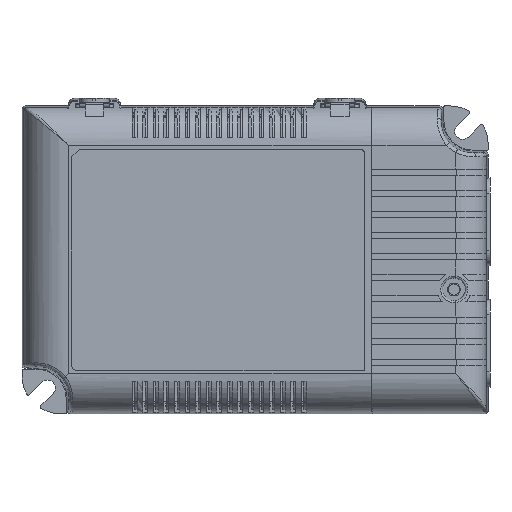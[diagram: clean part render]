
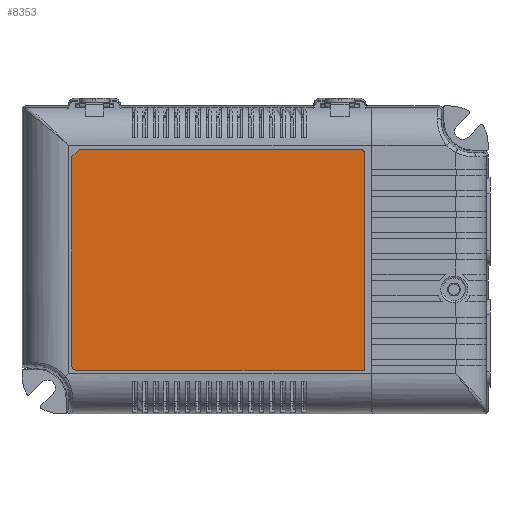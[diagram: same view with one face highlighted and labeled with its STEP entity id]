
A CAD part, top view. The second image highlights one B-rep face of the part: STEP entity #8353.
In plain terms, the highlighted planar face has unit normal (0, 0, 1).
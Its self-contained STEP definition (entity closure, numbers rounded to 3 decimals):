
#8237=CARTESIAN_POINT('',(37.973,40.088,16.763));
#8238=VERTEX_POINT('',#8237);
#8245=CARTESIAN_POINT('',(36.973,41.088,16.763));
#8246=VERTEX_POINT('',#8245);
#8247=CARTESIAN_POINT('',(37.973,41.088,16.763));
#8248=DIRECTION('',(0.0,0.0,1.0));
#8249=DIRECTION('',(-1.0,0.0,0.0));
#8250=AXIS2_PLACEMENT_3D('',#8247,#8248,#8249);
#8251=CIRCLE('',#8250,1.0);
#8252=EDGE_CURVE('',#8246,#8238,#8251,.T.);
#8269=CARTESIAN_POINT('',(114.473,40.088,16.763));
#8270=VERTEX_POINT('',#8269);
#8277=CARTESIAN_POINT('',(37.973,40.088,16.763));
#8278=DIRECTION('',(1.0,0.0,0.0));
#8279=VECTOR('',#8278,76.5);
#8280=LINE('',#8277,#8279);
#8281=EDGE_CURVE('',#8238,#8270,#8280,.T.);
#8294=CARTESIAN_POINT('',(114.473,97.588,16.763));
#8295=VERTEX_POINT('',#8294);
#8302=CARTESIAN_POINT('',(114.473,97.588,16.763));
#8303=DIRECTION('',(0.0,-1.0,0.0));
#8304=VECTOR('',#8303,57.5);
#8305=LINE('',#8302,#8304);
#8306=EDGE_CURVE('',#8295,#8270,#8305,.T.);
#8312=CARTESIAN_POINT('',(80.589,85.015,16.763));
#8313=DIRECTION('',(0.0,0.0,1.0));
#8314=DIRECTION('',(1.0,0.0,0.0));
#8315=AXIS2_PLACEMENT_3D('',#8312,#8313,#8314);
#8316=PLANE('',#8315);
#8317=ORIENTED_EDGE('',*,*,#8306,.F.);
#8318=CARTESIAN_POINT('',(113.473,98.588,16.763));
#8319=VERTEX_POINT('',#8318);
#8320=CARTESIAN_POINT('',(113.473,97.588,16.763));
#8321=DIRECTION('',(0.0,0.0,1.0));
#8322=DIRECTION('',(1.0,0.0,0.0));
#8323=AXIS2_PLACEMENT_3D('',#8320,#8321,#8322);
#8324=CIRCLE('',#8323,1.0);
#8325=EDGE_CURVE('',#8295,#8319,#8324,.T.);
#8326=ORIENTED_EDGE('',*,*,#8325,.T.);
#8327=CARTESIAN_POINT('',(38.973,98.588,16.763));
#8328=VERTEX_POINT('',#8327);
#8329=CARTESIAN_POINT('',(113.473,98.588,16.763));
#8330=DIRECTION('',(-1.0,0.0,0.0));
#8331=VECTOR('',#8330,74.5);
#8332=LINE('',#8329,#8331);
#8333=EDGE_CURVE('',#8319,#8328,#8332,.T.);
#8334=ORIENTED_EDGE('',*,*,#8333,.T.);
#8335=CARTESIAN_POINT('',(36.973,96.588,16.763));
#8336=VERTEX_POINT('',#8335);
#8337=CARTESIAN_POINT('',(38.973,98.588,16.763));
#8338=DIRECTION('',(-0.707,-0.707,0.0));
#8339=VECTOR('',#8338,2.828);
#8340=LINE('',#8337,#8339);
#8341=EDGE_CURVE('',#8328,#8336,#8340,.T.);
#8342=ORIENTED_EDGE('',*,*,#8341,.T.);
#8343=CARTESIAN_POINT('',(36.973,96.588,16.763));
#8344=DIRECTION('',(0.0,-1.0,0.0));
#8345=VECTOR('',#8344,55.5);
#8346=LINE('',#8343,#8345);
#8347=EDGE_CURVE('',#8336,#8246,#8346,.T.);
#8348=ORIENTED_EDGE('',*,*,#8347,.T.);
#8349=ORIENTED_EDGE('',*,*,#8252,.T.);
#8350=ORIENTED_EDGE('',*,*,#8281,.T.);
#8351=EDGE_LOOP('',(#8317,#8326,#8334,#8342,#8348,#8349,#8350));
#8352=FACE_OUTER_BOUND('',#8351,.T.);
#8353=ADVANCED_FACE('',(#8352),#8316,.T.);
